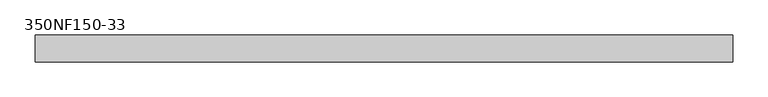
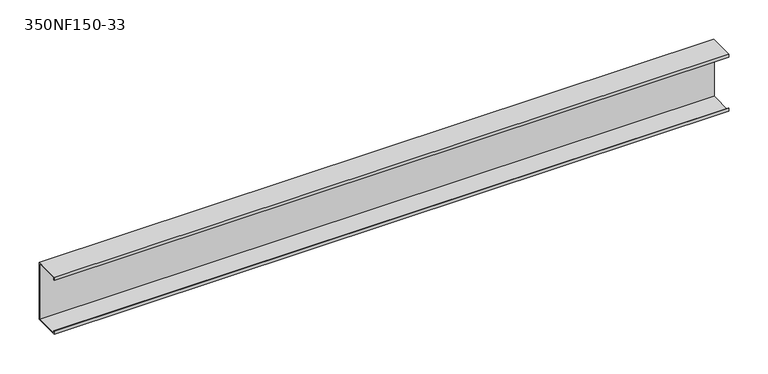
"""IFC4 building model written with IfcOpenShell, lengths in millimetres: beam geometry, BIMSF-SSMA-S : 350NF150-33."""

import ifcopenshell
import ifcopenshell.guid

model = None  # the IFC model being written
_history = None  # IfcOwnerHistory: only IFC2X3 demands one
_inside = {}  # id of a spatial element -> (the spatial element, [elements in it])
_under = {}  # id of a project, library or spatial element -> (it, [spatial elements below it])
_declared = {}  # id of a project -> (the project, [libraries it declares])
_typed = {}  # id of a type object -> (the type object, [elements of that type])
_made_of = {}  # id of a material, layer set ... -> (it, [elements and type objects made of it])


def new_model(schema):
    """Start an empty IFC model of exactly this schema.

    Asked for "IFC4X3", IfcOpenShell would pick the latest addendum, in which some entities
    have other attributes; the version numbers below select the first issue.
    IFC2X3 requires an IfcOwnerHistory on every rooted entity: one is made here for all.
    """
    global model, _history
    if schema == "IFC4X3":
        model = ifcopenshell.file(schema_version=(4, 3, 0, 0))
    else:
        model = ifcopenshell.file(schema=schema)
    _inside.clear()
    _under.clear()
    _declared.clear()
    _typed.clear()
    _made_of.clear()
    _history = None
    if model.schema == "IFC2X3":
        org = make("IfcOrganization", Name="unknown")
        user = make(
            "IfcPersonAndOrganization",
            ThePerson=make("IfcPerson", FamilyName="unknown"),
            TheOrganization=org,
        )
        app = make(
            "IfcApplication",
            ApplicationDeveloper=org,
            Version="unknown",
            ApplicationFullName="unknown",
            ApplicationIdentifier="unknown",
        )
        _history = make(
            "IfcOwnerHistory",
            OwningUser=user,
            OwningApplication=app,
            ChangeAction="ADDED",
            CreationDate=0,
        )
    return model


def make(cls, **values):
    """One entity of the class cls with the attributes given. An attribute that is None is left unset."""
    return model.create_entity(
        cls, **{name: value for name, value in values.items() if value is not None}
    )


def rooted(cls, **values):
    """An entity with a GlobalId (a new one), such as an element, a storey or a relation."""
    return make(cls, GlobalId=ifcopenshell.guid.new(), OwnerHistory=_history, **values)


def si_unit(unit_type, name, prefix=None):
    """IfcSIUnit, for example si_unit("LENGTHUNIT", "METRE", prefix="MILLI")."""
    return make("IfcSIUnit", UnitType=unit_type, Prefix=prefix, Name=name)


def assignment(units):
    """IfcUnitAssignment: the units of a project."""
    return None if units is None else make("IfcUnitAssignment", Units=units)


def point(xyz):
    """IfcCartesianPoint."""
    return None if xyz is None else make("IfcCartesianPoint", Coordinates=xyz)


def direction(xyz):
    """IfcDirection."""
    return None if xyz is None else make("IfcDirection", DirectionRatios=xyz)


def frame(location, z_axis=None, x_axis=None):
    """IfcAxis2Placement3D, a coordinate frame: its origin and axes. An axis left out is left unset."""
    return make(
        "IfcAxis2Placement3D",
        Location=point(location),
        Axis=direction(z_axis),
        RefDirection=direction(x_axis),
    )


def origin():
    """The frame at (0, 0, 0) with its axes left unset."""
    return frame((0.0, 0.0, 0.0))


def place(relative_to, where):
    """IfcLocalPlacement: puts the frame where relative to a parent placement (None: the world)."""
    return make(
        "IfcLocalPlacement", PlacementRelTo=relative_to, RelativePlacement=where
    )


def context(
    kind, dimensions, precision=None, world=None, true_north=None, identifier=None
):
    """IfcGeometricRepresentationContext, for example the 3D "Model" context."""
    return make(
        "IfcGeometricRepresentationContext",
        ContextIdentifier=identifier,
        ContextType=kind,
        CoordinateSpaceDimension=dimensions,
        Precision=precision,
        WorldCoordinateSystem=world,
        TrueNorth=true_north,
    )


def project(units=None, contexts=None):
    """IfcProject with its units and contexts."""
    return rooted(
        "IfcProject",
        Name="project",
        RepresentationContexts=contexts,
        UnitsInContext=assignment(units),
    )


def spatial(cls, under=None, at=None, **own):
    """A site, building, storey or space (cls), placed at a placement, below another one or the project."""
    s = rooted(cls, ObjectPlacement=at, **own)
    if under is not None:
        _under.setdefault(under.id(), (under, []))[1].append(s)
    return s


def polyline(points):
    """IfcPolyline through the points."""
    return make("IfcPolyline", Points=[point(p) for p in points])


def outline(outer, holes=None, kind="AREA"):
    """IfcArbitraryClosedProfileDef: a profile drawn as a closed curve; with holes, ...WithVoids."""
    if holes is None:
        return make("IfcArbitraryClosedProfileDef", ProfileType=kind, OuterCurve=outer)
    return make(
        "IfcArbitraryProfileDefWithVoids",
        ProfileType=kind,
        OuterCurve=outer,
        InnerCurves=holes,
    )


def extrude(swept, where, along, depth):
    """IfcExtrudedAreaSolid: the profile swept, set in the frame where, extruded along a direction by depth."""
    return make(
        "IfcExtrudedAreaSolid",
        SweptArea=swept,
        Position=where,
        ExtrudedDirection=direction(along),
        Depth=depth,
    )


def shape(context_of_items, identifier, shape_type, items):
    """IfcShapeRepresentation: the items that make up one representation, for example the "Body"."""
    return make(
        "IfcShapeRepresentation",
        ContextOfItems=context_of_items,
        RepresentationIdentifier=identifier,
        RepresentationType=shape_type,
        Items=items,
    )


def source(mapping_origin, context_of_items, identifier, shape_type, items):
    """IfcRepresentationMap: a shape defined once, which mapped items show again and again."""
    return make(
        "IfcRepresentationMap",
        MappingOrigin=mapping_origin,
        MappedRepresentation=shape(context_of_items, identifier, shape_type, items),
    )


def transform(
    local_origin,
    x_axis=None,
    y_axis=None,
    z_axis=None,
    scale=None,
    scale2=None,
    scale3=None,
    uniform=True,
):
    """IfcCartesianTransformationOperator3D, or its non-uniform kind. x_axis, y_axis, z_axis: its Axis1, 2, 3."""
    if uniform:
        return make(
            "IfcCartesianTransformationOperator3D",
            Axis1=direction(x_axis),
            Axis2=direction(y_axis),
            LocalOrigin=point(local_origin),
            Scale=scale,
            Axis3=direction(z_axis),
        )
    return make(
        "IfcCartesianTransformationOperator3DnonUniform",
        Axis1=direction(x_axis),
        Axis2=direction(y_axis),
        LocalOrigin=point(local_origin),
        Scale=scale,
        Axis3=direction(z_axis),
        Scale2=scale2,
        Scale3=scale3,
    )


def mapped(mapping_source, mapping_target):
    """IfcMappedItem: shows the shape of a source again, moved by a transform."""
    return make(
        "IfcMappedItem", MappingSource=mapping_source, MappingTarget=mapping_target
    )


def made_of(thing, what):
    """Note that an element or type object is made of a material, layer set ...; save() writes the relation."""
    if what is not None:
        _made_of.setdefault(what.id(), (what, []))[1].append(thing)
    return thing


def element(
    cls,
    number,
    at=None,
    inside=None,
    cuts=None,
    type_object=None,
    material=None,
    context=None,
    identifier="Body",
    shape_type=None,
    held_by="IfcProductDefinitionShape",
    body=None,
    shapes=None,
    **own,
):
    """One element of the class cls, such as IfcWall. Its Tag is "e" and its number.

    at: its placement. inside: the storey or other place that contains it. cuts: it is an
    opening in that element (IfcRelVoidsElement). A single representation is given by context,
    identifier, shape_type and body (its items); several are given by shapes. held_by: the class
    of the entity that holds the representations. save() writes the other relations.
    """
    e = rooted(cls, Tag="e%d" % number, ObjectPlacement=at, **own)
    if body is not None:
        shapes = [shape(context, identifier, shape_type, body)]
    if shapes is not None:
        e.Representation = make(held_by, Representations=shapes)
    if inside is not None:
        _inside.setdefault(inside.id(), (inside, []))[1].append(e)
    if cuts is not None:
        rooted(
            "IfcRelVoidsElement", RelatingBuildingElement=cuts, RelatedOpeningElement=e
        )
    if type_object is not None:
        _typed.setdefault(type_object.id(), (type_object, []))[1].append(e)
    return made_of(e, material)


def aggregate(whole, parts):
    """IfcRelAggregates: a whole, such as a stair, and the parts it consists of."""
    return rooted("IfcRelAggregates", RelatingObject=whole, RelatedObjects=parts)


def save(model, path):
    """Write the relations noted so far, then the file.

    IfcRelAggregates (storeys below a building ...), IfcRelContainedInSpatialStructure (elements
    in a storey), IfcRelDefinesByType, IfcRelAssociatesMaterial and IfcRelDeclares: one each for
    every whole, place, type object, material and project.
    """
    for whole, parts in _under.values():
        aggregate(whole, parts)
    for where, things in _inside.values():
        rooted(
            "IfcRelContainedInSpatialStructure",
            RelatedElements=things,
            RelatingStructure=where,
        )
    for kind, things in _typed.values():
        rooted("IfcRelDefinesByType", RelatedObjects=things, RelatingType=kind)
    for what, things in _made_of.values():
        rooted("IfcRelAssociatesMaterial", RelatedObjects=things, RelatingMaterial=what)
    for by, libraries in _declared.values():
        rooted("IfcRelDeclares", RelatingContext=by, RelatedDefinitions=libraries)
    model.write(path)


def beam_350nf150_33_9c6ba0de(model_context):
    return source(origin(), model_context, "Body", "SweptSolid", [
        extrude(outline(polyline([(19.05, 44.45), (19.05, -44.45), (-19.05, -44.45), (-19.05, -39.6748), (-18.1676842, -39.6748), (-18.1676842, -43.5676842), (18.1676842, -43.5676842), (18.1676842, 43.5676842), (-18.1676842, 43.5676842), (-18.1676842, 39.6748), (-19.05, 39.6748), (-19.05, 44.45), (19.05, 44.45)])), frame((-495.3, 0.0, 0.0), z_axis=(1.0, 0.0, 0.0), x_axis=(0.0, 1.0, 0.0)), (0.0, 0.0, 1.0), 990.6),
    ])


if __name__ == "__main__":
    model = new_model("IFC4")
    model_context = context("Model", 3, world=origin())
    ifc_project = project(units=[si_unit("LENGTHUNIT", "METRE", prefix="MILLI")], contexts=[model_context])
    site = spatial("IfcSite", under=ifc_project)
    building = spatial("IfcBuilding", under=site)
    placement = place(None, origin())
    beam_350nf150_33_shape = beam_350nf150_33_9c6ba0de(model_context)
    element("IfcBeam", 1, ObjectType="BIMSF-SSMA-S : 350NF150-33", at=placement, inside=building, context=model_context, shape_type="MappedRepresentation", body=[
        mapped(beam_350nf150_33_shape, transform((0.0, 0.0, 0.0), x_axis=(1.0, 0.0, 0.0), y_axis=(0.0, 1.0, 0.0), z_axis=(0.0, 0.0, 1.0))),
    ])
    save(model, "model.ifc")
